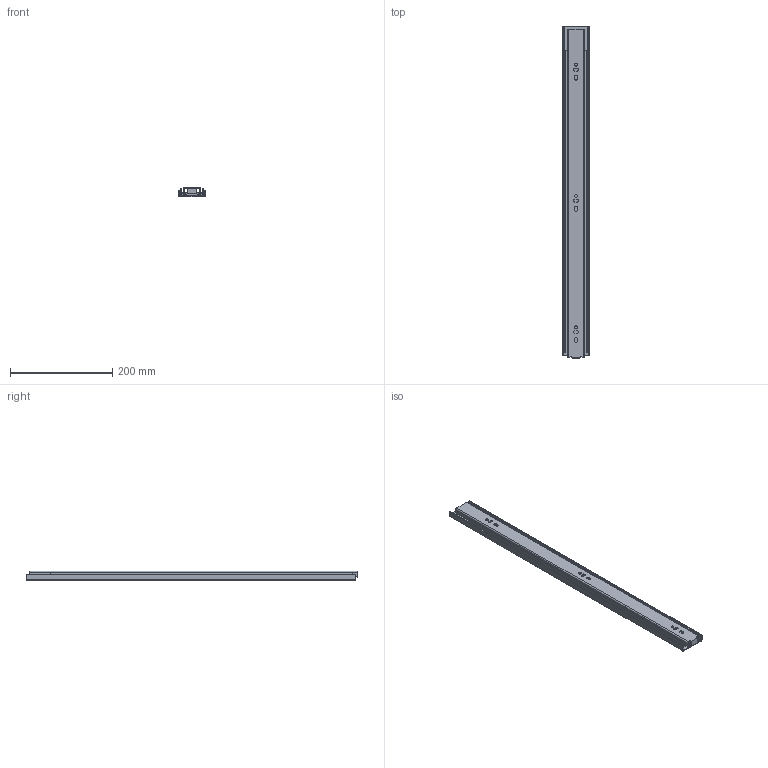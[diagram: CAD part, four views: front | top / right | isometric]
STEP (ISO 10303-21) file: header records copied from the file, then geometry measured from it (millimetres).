
FILE_DESCRIPTION((''),'2;1');
FILE_NAME('78A01_650_CLOSE_ASM','2020-09-01T15:19:47',('T170334'),(''),'CREO PARAMETRIC BY PTC INC, 2018260','CREO PARAMETRIC BY PTC INC, 2018260','');
FILE_SCHEMA(('CONFIG_CONTROL_DESIGN'));
Length unit declared in the file: millimetre
Products named in the file (5): OUT_650; MID_650; IN_650; MECHANISM_C; 78A01_650_CLOSE_ASM
Assembly tree (4 placements, depth 2):
  78A01_650_CLOSE_ASM
    OUT_650
    MID_650
    IN_650
    MECHANISM_C
Bounding box: 53.32 x 648 x 18.84 mm (x, y, z)
Volume: 228865.7 mm3; surface area: 246571.8 mm2
Topology: 4 solids, 4 shells, 170 faces, 482 edges, 320 vertices
Faces by surface type: cylinder 86, plane 84
Entity records: 5787 total; most frequent: CARTESIAN_POINT 1021, DIRECTION 996, ORIENTED_EDGE 964, EDGE_CURVE 482, AXIS2_PLACEMENT_3D 343, VERTEX_POINT 320, VECTOR 310, LINE 310
